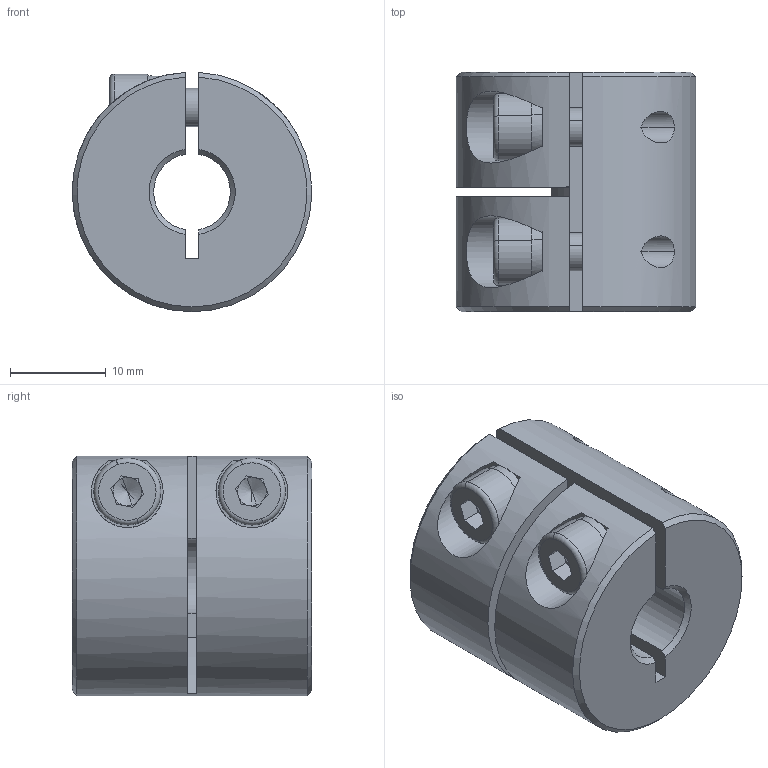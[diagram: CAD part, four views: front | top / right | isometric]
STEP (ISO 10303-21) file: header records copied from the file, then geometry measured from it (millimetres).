
FILE_DESCRIPTION (( 'STEP AP203' ), '1' );
FILE_NAME ('LL-B-D25L25-8-8.STEP', '2021-11-05T06:37:29', ( '' ), ( '' ), 'SwSTEP 2.0', 'SolidWorks 2018', '' );
FILE_SCHEMA (( 'CONFIG_CONTROL_DESIGN' ));
Length unit declared in the file: millimetre
Products named in the file (1): LL-B-D25L25-8-8
Bounding box: 24.99 x 25 x 24.98 mm (x, y, z)
Volume: 10242 mm3; surface area: 4943.1 mm2
Topology: 1 solids, 1 shells, 100 faces, 258 edges, 162 vertices
Faces by surface type: plane 50, cylinder 35, cone 11, torus 4
Entity records: 3335 total; most frequent: CARTESIAN_POINT 791, DIRECTION 536, ORIENTED_EDGE 508, EDGE_CURVE 254, AXIS2_PLACEMENT_3D 207, VERTEX_POINT 162, LINE 122, VECTOR 122
